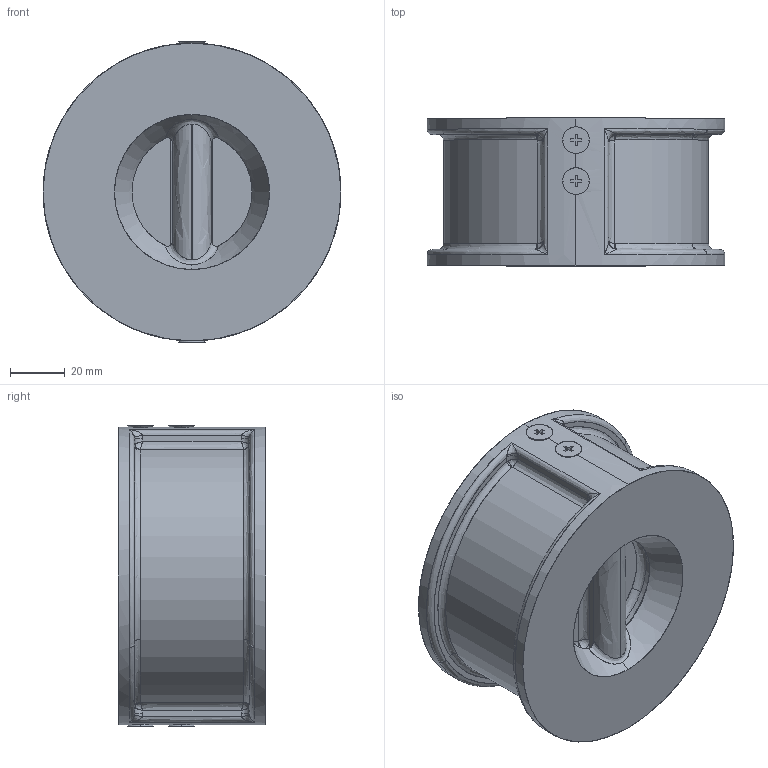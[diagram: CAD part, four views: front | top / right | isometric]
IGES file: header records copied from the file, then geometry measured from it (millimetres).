
Start section: SolidWorks IGES file using analytic representation for surfaces
Global section: file name: C:\Users\Administrator\Desktop\temp\00.IGS; native system: SolidWorks 2015; preprocessor: SolidWorks 2015; author: Administrator; date: 170402.163858; units: millimetre
Bounding box: 109 x 54 x 110 mm (x, y, z)
Surface area: 68332.6 mm2 (no closed solid volume)
Topology: 0 solids, 0 shells, 477 faces, 5118 edges, 5088 vertices
Faces by surface type: bspline 294, revolution 183
